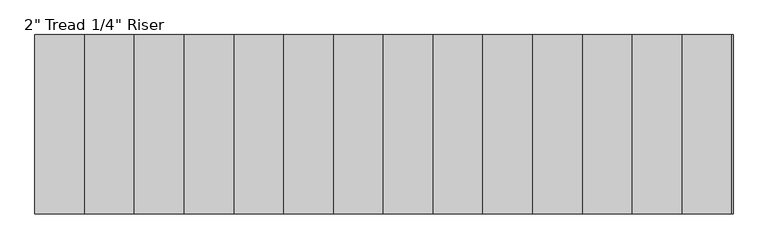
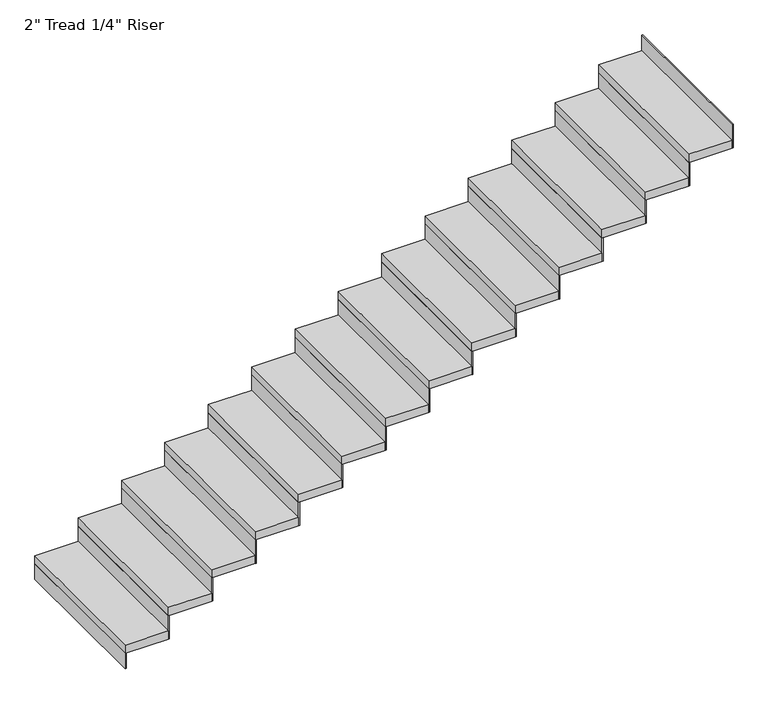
"""IFC4 building model written with IfcOpenShell, lengths in millimetres: stair flight geometry."""

import ifcopenshell
import ifcopenshell.guid

model = None  # the IFC model being written
_history = None  # IfcOwnerHistory: only IFC2X3 demands one
_inside = {}  # id of a spatial element -> (the spatial element, [elements in it])
_under = {}  # id of a project, library or spatial element -> (it, [spatial elements below it])
_declared = {}  # id of a project -> (the project, [libraries it declares])
_typed = {}  # id of a type object -> (the type object, [elements of that type])
_made_of = {}  # id of a material, layer set ... -> (it, [elements and type objects made of it])


def new_model(schema):
    """Start an empty IFC model of exactly this schema.

    Asked for "IFC4X3", IfcOpenShell would pick the latest addendum, in which some entities
    have other attributes; the version numbers below select the first issue.
    IFC2X3 requires an IfcOwnerHistory on every rooted entity: one is made here for all.
    """
    global model, _history
    if schema == "IFC4X3":
        model = ifcopenshell.file(schema_version=(4, 3, 0, 0))
    else:
        model = ifcopenshell.file(schema=schema)
    _inside.clear()
    _under.clear()
    _declared.clear()
    _typed.clear()
    _made_of.clear()
    _history = None
    if model.schema == "IFC2X3":
        org = make("IfcOrganization", Name="unknown")
        user = make(
            "IfcPersonAndOrganization",
            ThePerson=make("IfcPerson", FamilyName="unknown"),
            TheOrganization=org,
        )
        app = make(
            "IfcApplication",
            ApplicationDeveloper=org,
            Version="unknown",
            ApplicationFullName="unknown",
            ApplicationIdentifier="unknown",
        )
        _history = make(
            "IfcOwnerHistory",
            OwningUser=user,
            OwningApplication=app,
            ChangeAction="ADDED",
            CreationDate=0,
        )
    return model


def make(cls, **values):
    """One entity of the class cls with the attributes given. An attribute that is None is left unset."""
    return model.create_entity(
        cls, **{name: value for name, value in values.items() if value is not None}
    )


def rooted(cls, **values):
    """An entity with a GlobalId (a new one), such as an element, a storey or a relation."""
    return make(cls, GlobalId=ifcopenshell.guid.new(), OwnerHistory=_history, **values)


def si_unit(unit_type, name, prefix=None):
    """IfcSIUnit, for example si_unit("LENGTHUNIT", "METRE", prefix="MILLI")."""
    return make("IfcSIUnit", UnitType=unit_type, Prefix=prefix, Name=name)


def assignment(units):
    """IfcUnitAssignment: the units of a project."""
    return None if units is None else make("IfcUnitAssignment", Units=units)


def point(xyz):
    """IfcCartesianPoint."""
    return None if xyz is None else make("IfcCartesianPoint", Coordinates=xyz)


def direction(xyz):
    """IfcDirection."""
    return None if xyz is None else make("IfcDirection", DirectionRatios=xyz)


def frame(location, z_axis=None, x_axis=None):
    """IfcAxis2Placement3D, a coordinate frame: its origin and axes. An axis left out is left unset."""
    return make(
        "IfcAxis2Placement3D",
        Location=point(location),
        Axis=direction(z_axis),
        RefDirection=direction(x_axis),
    )


def origin():
    """The frame at (0, 0, 0) with its axes left unset."""
    return frame((0.0, 0.0, 0.0))


def origin_with_axes():
    """The frame at (0, 0, 0) with the z axis (0, 0, 1) and the x axis (1, 0, 0) written out."""
    return frame((0.0, 0.0, 0.0), z_axis=(0.0, 0.0, 1.0), x_axis=(1.0, 0.0, 0.0))


def place(relative_to, where):
    """IfcLocalPlacement: puts the frame where relative to a parent placement (None: the world)."""
    return make(
        "IfcLocalPlacement", PlacementRelTo=relative_to, RelativePlacement=where
    )


def context(
    kind, dimensions, precision=None, world=None, true_north=None, identifier=None
):
    """IfcGeometricRepresentationContext, for example the 3D "Model" context."""
    return make(
        "IfcGeometricRepresentationContext",
        ContextIdentifier=identifier,
        ContextType=kind,
        CoordinateSpaceDimension=dimensions,
        Precision=precision,
        WorldCoordinateSystem=world,
        TrueNorth=true_north,
    )


def project(units=None, contexts=None):
    """IfcProject with its units and contexts."""
    return rooted(
        "IfcProject",
        Name="project",
        RepresentationContexts=contexts,
        UnitsInContext=assignment(units),
    )


def spatial(cls, under=None, at=None, **own):
    """A site, building, storey or space (cls), placed at a placement, below another one or the project."""
    s = rooted(cls, ObjectPlacement=at, **own)
    if under is not None:
        _under.setdefault(under.id(), (under, []))[1].append(s)
    return s


def polyline(points):
    """IfcPolyline through the points."""
    return make("IfcPolyline", Points=[point(p) for p in points])


def outline(outer, holes=None, kind="AREA"):
    """IfcArbitraryClosedProfileDef: a profile drawn as a closed curve; with holes, ...WithVoids."""
    if holes is None:
        return make("IfcArbitraryClosedProfileDef", ProfileType=kind, OuterCurve=outer)
    return make(
        "IfcArbitraryProfileDefWithVoids",
        ProfileType=kind,
        OuterCurve=outer,
        InnerCurves=holes,
    )


def extrude(swept, where, along, depth):
    """IfcExtrudedAreaSolid: the profile swept, set in the frame where, extruded along a direction by depth."""
    return make(
        "IfcExtrudedAreaSolid",
        SweptArea=swept,
        Position=where,
        ExtrudedDirection=direction(along),
        Depth=depth,
    )


def shape(context_of_items, identifier, shape_type, items):
    """IfcShapeRepresentation: the items that make up one representation, for example the "Body"."""
    return make(
        "IfcShapeRepresentation",
        ContextOfItems=context_of_items,
        RepresentationIdentifier=identifier,
        RepresentationType=shape_type,
        Items=items,
    )


def source(mapping_origin, context_of_items, identifier, shape_type, items):
    """IfcRepresentationMap: a shape defined once, which mapped items show again and again."""
    return make(
        "IfcRepresentationMap",
        MappingOrigin=mapping_origin,
        MappedRepresentation=shape(context_of_items, identifier, shape_type, items),
    )


def transform(
    local_origin,
    x_axis=None,
    y_axis=None,
    z_axis=None,
    scale=None,
    scale2=None,
    scale3=None,
    uniform=True,
):
    """IfcCartesianTransformationOperator3D, or its non-uniform kind. x_axis, y_axis, z_axis: its Axis1, 2, 3."""
    if uniform:
        return make(
            "IfcCartesianTransformationOperator3D",
            Axis1=direction(x_axis),
            Axis2=direction(y_axis),
            LocalOrigin=point(local_origin),
            Scale=scale,
            Axis3=direction(z_axis),
        )
    return make(
        "IfcCartesianTransformationOperator3DnonUniform",
        Axis1=direction(x_axis),
        Axis2=direction(y_axis),
        LocalOrigin=point(local_origin),
        Scale=scale,
        Axis3=direction(z_axis),
        Scale2=scale2,
        Scale3=scale3,
    )


def mapped(mapping_source, mapping_target):
    """IfcMappedItem: shows the shape of a source again, moved by a transform."""
    return make(
        "IfcMappedItem", MappingSource=mapping_source, MappingTarget=mapping_target
    )


def made_of(thing, what):
    """Note that an element or type object is made of a material, layer set ...; save() writes the relation."""
    if what is not None:
        _made_of.setdefault(what.id(), (what, []))[1].append(thing)
    return thing


def element(
    cls,
    number,
    at=None,
    inside=None,
    cuts=None,
    type_object=None,
    material=None,
    context=None,
    identifier="Body",
    shape_type=None,
    held_by="IfcProductDefinitionShape",
    body=None,
    shapes=None,
    **own,
):
    """One element of the class cls, such as IfcWall. Its Tag is "e" and its number.

    at: its placement. inside: the storey or other place that contains it. cuts: it is an
    opening in that element (IfcRelVoidsElement). A single representation is given by context,
    identifier, shape_type and body (its items); several are given by shapes. held_by: the class
    of the entity that holds the representations. save() writes the other relations.
    """
    e = rooted(cls, Tag="e%d" % number, ObjectPlacement=at, **own)
    if body is not None:
        shapes = [shape(context, identifier, shape_type, body)]
    if shapes is not None:
        e.Representation = make(held_by, Representations=shapes)
    if inside is not None:
        _inside.setdefault(inside.id(), (inside, []))[1].append(e)
    if cuts is not None:
        rooted(
            "IfcRelVoidsElement", RelatingBuildingElement=cuts, RelatedOpeningElement=e
        )
    if type_object is not None:
        _typed.setdefault(type_object.id(), (type_object, []))[1].append(e)
    return made_of(e, material)


def aggregate(whole, parts):
    """IfcRelAggregates: a whole, such as a stair, and the parts it consists of."""
    return rooted("IfcRelAggregates", RelatingObject=whole, RelatedObjects=parts)


def save(model, path):
    """Write the relations noted so far, then the file.

    IfcRelAggregates (storeys below a building ...), IfcRelContainedInSpatialStructure (elements
    in a storey), IfcRelDefinesByType, IfcRelAssociatesMaterial and IfcRelDeclares: one each for
    every whole, place, type object, material and project.
    """
    for whole, parts in _under.values():
        aggregate(whole, parts)
    for where, things in _inside.values():
        rooted(
            "IfcRelContainedInSpatialStructure",
            RelatedElements=things,
            RelatingStructure=where,
        )
    for kind, things in _typed.values():
        rooted("IfcRelDefinesByType", RelatedObjects=things, RelatingType=kind)
    for what, things in _made_of.values():
        rooted("IfcRelAssociatesMaterial", RelatedObjects=things, RelatingMaterial=what)
    for by, libraries in _declared.values():
        rooted("IfcRelDeclares", RelatingContext=by, RelatedDefinitions=libraries)
    model.write(path)


def stair_flight_867b6349(model_context):
    return source(origin(), model_context, "Body", "SweptSolid", [
        extrude(outline(polyline([(-2286.5339979, 21385.3361774), (-2292.8839979, 21385.3361774), (-2292.8839979, 22299.7361774), (-2286.5339979, 22299.7361774), (-2286.5339979, 21385.3361774)])), origin_with_axes(), (0.0, 0.0, 1.0), 94.3428571),
        extrude(outline(polyline([(-2038.8839979, 22299.7361774), (-2038.8839979, 21385.3361774), (-2292.8839979, 21385.3361774), (-2292.8839979, 22299.7361774), (-2038.8839979, 22299.7361774)])), frame((0.0, 0.0, 94.3428571), z_axis=(0.0, 0.0, 1.0), x_axis=(1.0, 0.0, 0.0)), (0.0, 0.0, 1.0), 50.8),
        extrude(outline(polyline([(-2032.5339979, 21385.3361774), (-2038.8839979, 21385.3361774), (-2038.8839979, 22299.7361774), (-2032.5339979, 22299.7361774), (-2032.5339979, 21385.3361774)])), frame((0.0, 0.0, 94.3428571), z_axis=(0.0, 0.0, 1.0), x_axis=(1.0, 0.0, 0.0)), (0.0, 0.0, 1.0), 145.1428571),
        extrude(outline(polyline([(-1784.8839979, 22299.7361774), (-1784.8839979, 21385.3361774), (-2038.8839979, 21385.3361774), (-2038.8839979, 22299.7361774), (-1784.8839979, 22299.7361774)])), frame((0.0, 0.0, 239.4857143), z_axis=(0.0, 0.0, 1.0), x_axis=(1.0, 0.0, 0.0)), (0.0, 0.0, 1.0), 50.8),
        extrude(outline(polyline([(-1778.5339979, 21385.3361774), (-1784.8839979, 21385.3361774), (-1784.8839979, 22299.7361774), (-1778.5339979, 22299.7361774), (-1778.5339979, 21385.3361774)])), frame((0.0, 0.0, 239.4857143), z_axis=(0.0, 0.0, 1.0), x_axis=(1.0, 0.0, 0.0)), (0.0, 0.0, 1.0), 145.1428571),
        extrude(outline(polyline([(-1530.8839979, 22299.7361774), (-1530.8839979, 21385.3361774), (-1784.8839979, 21385.3361774), (-1784.8839979, 22299.7361774), (-1530.8839979, 22299.7361774)])), frame((0.0, 0.0, 384.6285714), z_axis=(0.0, 0.0, 1.0), x_axis=(1.0, 0.0, 0.0)), (0.0, 0.0, 1.0), 50.8),
        extrude(outline(polyline([(-1524.5339979, 21385.3361774), (-1530.8839979, 21385.3361774), (-1530.8839979, 22299.7361774), (-1524.5339979, 22299.7361774), (-1524.5339979, 21385.3361774)])), frame((0.0, 0.0, 384.6285714), z_axis=(0.0, 0.0, 1.0), x_axis=(1.0, 0.0, 0.0)), (0.0, 0.0, 1.0), 145.1428571),
        extrude(outline(polyline([(-1276.8839979, 22299.7361774), (-1276.8839979, 21385.3361774), (-1530.8839979, 21385.3361774), (-1530.8839979, 22299.7361774), (-1276.8839979, 22299.7361774)])), frame((0.0, 0.0, 529.7714286), z_axis=(0.0, 0.0, 1.0), x_axis=(1.0, 0.0, 0.0)), (0.0, 0.0, 1.0), 50.8),
        extrude(outline(polyline([(-1270.5339979, 21385.3361774), (-1276.8839979, 21385.3361774), (-1276.8839979, 22299.7361774), (-1270.5339979, 22299.7361774), (-1270.5339979, 21385.3361774)])), frame((0.0, 0.0, 529.7714286), z_axis=(0.0, 0.0, 1.0), x_axis=(1.0, 0.0, 0.0)), (0.0, 0.0, 1.0), 145.1428571),
        extrude(outline(polyline([(-1022.8839979, 22299.7361774), (-1022.8839979, 21385.3361774), (-1276.8839979, 21385.3361774), (-1276.8839979, 22299.7361774), (-1022.8839979, 22299.7361774)])), frame((0.0, 0.0, 674.9142857), z_axis=(0.0, 0.0, 1.0), x_axis=(1.0, 0.0, 0.0)), (0.0, 0.0, 1.0), 50.8),
        extrude(outline(polyline([(-1016.5339979, 21385.3361774), (-1022.8839979, 21385.3361774), (-1022.8839979, 22299.7361774), (-1016.5339979, 22299.7361774), (-1016.5339979, 21385.3361774)])), frame((0.0, 0.0, 674.9142857), z_axis=(0.0, 0.0, 1.0), x_axis=(1.0, 0.0, 0.0)), (0.0, 0.0, 1.0), 145.1428571),
        extrude(outline(polyline([(-768.8839979, 22299.7361774), (-768.8839979, 21385.3361774), (-1022.8839979, 21385.3361774), (-1022.8839979, 22299.7361774), (-768.8839979, 22299.7361774)])), frame((0.0, 0.0, 820.0571429), z_axis=(0.0, 0.0, 1.0), x_axis=(1.0, 0.0, 0.0)), (0.0, 0.0, 1.0), 50.8),
        extrude(outline(polyline([(-762.5339979, 21385.3361774), (-768.8839979, 21385.3361774), (-768.8839979, 22299.7361774), (-762.5339979, 22299.7361774), (-762.5339979, 21385.3361774)])), frame((0.0, 0.0, 820.0571429), z_axis=(0.0, 0.0, 1.0), x_axis=(1.0, 0.0, 0.0)), (0.0, 0.0, 1.0), 145.1428571),
        extrude(outline(polyline([(-514.8839979, 22299.7361774), (-514.8839979, 21385.3361774), (-768.8839979, 21385.3361774), (-768.8839979, 22299.7361774), (-514.8839979, 22299.7361774)])), frame((0.0, 0.0, 965.2), z_axis=(0.0, 0.0, 1.0), x_axis=(1.0, 0.0, 0.0)), (0.0, 0.0, 1.0), 50.8),
        extrude(outline(polyline([(-508.5339979, 21385.3361774), (-514.8839979, 21385.3361774), (-514.8839979, 22299.7361774), (-508.5339979, 22299.7361774), (-508.5339979, 21385.3361774)])), frame((0.0, 0.0, 965.2), z_axis=(0.0, 0.0, 1.0), x_axis=(1.0, 0.0, 0.0)), (0.0, 0.0, 1.0), 145.1428571),
        extrude(outline(polyline([(-260.8839979, 22299.7361774), (-260.8839979, 21385.3361774), (-514.8839979, 21385.3361774), (-514.8839979, 22299.7361774), (-260.8839979, 22299.7361774)])), frame((0.0, 0.0, 1110.3428571), z_axis=(0.0, 0.0, 1.0), x_axis=(1.0, 0.0, 0.0)), (0.0, 0.0, 1.0), 50.8),
        extrude(outline(polyline([(-254.5339979, 21385.3361774), (-260.8839979, 21385.3361774), (-260.8839979, 22299.7361774), (-254.5339979, 22299.7361774), (-254.5339979, 21385.3361774)])), frame((0.0, 0.0, 1110.3428571), z_axis=(0.0, 0.0, 1.0), x_axis=(1.0, 0.0, 0.0)), (0.0, 0.0, 1.0), 145.1428571),
        extrude(outline(polyline([(-6.8839979, 22299.7361774), (-6.8839979, 21385.3361774), (-260.8839979, 21385.3361774), (-260.8839979, 22299.7361774), (-6.8839979, 22299.7361774)])), frame((0.0, 0.0, 1255.4857143), z_axis=(0.0, 0.0, 1.0), x_axis=(1.0, 0.0, 0.0)), (0.0, 0.0, 1.0), 50.8),
        extrude(outline(polyline([(-0.5339979, 21385.3361774), (-6.8839979, 21385.3361774), (-6.8839979, 22299.7361774), (-0.5339979, 22299.7361774), (-0.5339979, 21385.3361774)])), frame((0.0, 0.0, 1255.4857143), z_axis=(0.0, 0.0, 1.0), x_axis=(1.0, 0.0, 0.0)), (0.0, 0.0, 1.0), 145.1428571),
        extrude(outline(polyline([(247.1160021, 22299.7361774), (247.1160021, 21385.3361774), (-6.8839979, 21385.3361774), (-6.8839979, 22299.7361774), (247.1160021, 22299.7361774)])), frame((0.0, 0.0, 1400.6285714), z_axis=(0.0, 0.0, 1.0), x_axis=(1.0, 0.0, 0.0)), (0.0, 0.0, 1.0), 50.8),
        extrude(outline(polyline([(253.4660021, 21385.3361774), (247.1160021, 21385.3361774), (247.1160021, 22299.7361774), (253.4660021, 22299.7361774), (253.4660021, 21385.3361774)])), frame((0.0, 0.0, 1400.6285714), z_axis=(0.0, 0.0, 1.0), x_axis=(1.0, 0.0, 0.0)), (0.0, 0.0, 1.0), 145.1428571),
        extrude(outline(polyline([(501.1160021, 22299.7361774), (501.1160021, 21385.3361774), (247.1160021, 21385.3361774), (247.1160021, 22299.7361774), (501.1160021, 22299.7361774)])), frame((0.0, 0.0, 1545.7714286), z_axis=(0.0, 0.0, 1.0), x_axis=(1.0, 0.0, 0.0)), (0.0, 0.0, 1.0), 50.8),
        extrude(outline(polyline([(507.4660021, 21385.3361774), (501.1160021, 21385.3361774), (501.1160021, 22299.7361774), (507.4660021, 22299.7361774), (507.4660021, 21385.3361774)])), frame((0.0, 0.0, 1545.7714286), z_axis=(0.0, 0.0, 1.0), x_axis=(1.0, 0.0, 0.0)), (0.0, 0.0, 1.0), 145.1428571),
        extrude(outline(polyline([(755.1160021, 22299.7361774), (755.1160021, 21385.3361774), (501.1160021, 21385.3361774), (501.1160021, 22299.7361774), (755.1160021, 22299.7361774)])), frame((0.0, 0.0, 1690.9142857), z_axis=(0.0, 0.0, 1.0), x_axis=(1.0, 0.0, 0.0)), (0.0, 0.0, 1.0), 50.8),
        extrude(outline(polyline([(761.4660021, 21385.3361774), (755.1160021, 21385.3361774), (755.1160021, 22299.7361774), (761.4660021, 22299.7361774), (761.4660021, 21385.3361774)])), frame((0.0, 0.0, 1690.9142857), z_axis=(0.0, 0.0, 1.0), x_axis=(1.0, 0.0, 0.0)), (0.0, 0.0, 1.0), 145.1428571),
        extrude(outline(polyline([(1009.1160021, 22299.7361774), (1009.1160021, 21385.3361774), (755.1160021, 21385.3361774), (755.1160021, 22299.7361774), (1009.1160021, 22299.7361774)])), frame((0.0, 0.0, 1836.0571429), z_axis=(0.0, 0.0, 1.0), x_axis=(1.0, 0.0, 0.0)), (0.0, 0.0, 1.0), 50.8),
        extrude(outline(polyline([(1015.4660021, 21385.3361774), (1009.1160021, 21385.3361774), (1009.1160021, 22299.7361774), (1015.4660021, 22299.7361774), (1015.4660021, 21385.3361774)])), frame((0.0, 0.0, 1836.0571429), z_axis=(0.0, 0.0, 1.0), x_axis=(1.0, 0.0, 0.0)), (0.0, 0.0, 1.0), 145.1428571),
        extrude(outline(polyline([(1269.4660021, 21385.3361774), (1263.1160021, 21385.3361774), (1263.1160021, 22299.7361774), (1269.4660021, 22299.7361774), (1269.4660021, 21385.3361774)])), frame((0.0, 0.0, 1981.2), z_axis=(0.0, 0.0, 1.0), x_axis=(1.0, 0.0, 0.0)), (0.0, 0.0, 1.0), 145.1428571),
        extrude(outline(polyline([(1263.1160021, 22299.7361774), (1263.1160021, 21385.3361774), (1009.1160021, 21385.3361774), (1009.1160021, 22299.7361774), (1263.1160021, 22299.7361774)])), frame((0.0, 0.0, 1981.2), z_axis=(0.0, 0.0, 1.0), x_axis=(1.0, 0.0, 0.0)), (0.0, 0.0, 1.0), 50.8),
    ])


if __name__ == "__main__":
    model = new_model("IFC4")
    model_context = context("Model", 3, world=origin())
    ifc_project = project(units=[si_unit("LENGTHUNIT", "METRE", prefix="MILLI")], contexts=[model_context])
    site = spatial("IfcSite", under=ifc_project)
    building = spatial("IfcBuilding", under=site)
    placement = place(None, origin())
    stair_flight_shape = stair_flight_867b6349(model_context)
    element("IfcStairFlight", 1, ObjectType="2\" Tread 1/4\" Riser", at=placement, inside=building, context=model_context, shape_type="MappedRepresentation", body=[
        mapped(stair_flight_shape, transform((0.0, 0.0, 0.0), x_axis=(1.0, 0.0, 0.0), y_axis=(0.0, 1.0, 0.0), z_axis=(0.0, 0.0, 1.0))),
    ])
    save(model, "model.ifc")
